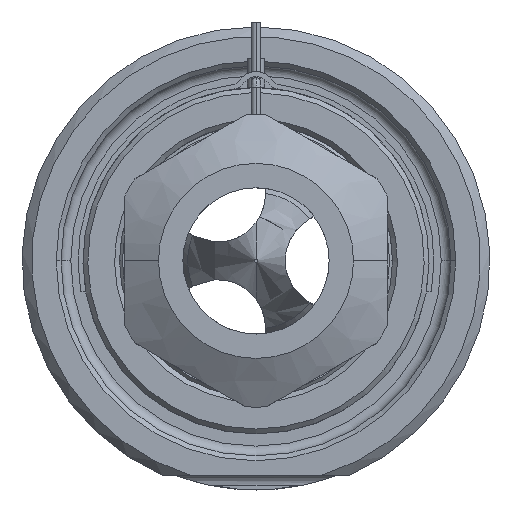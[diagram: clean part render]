
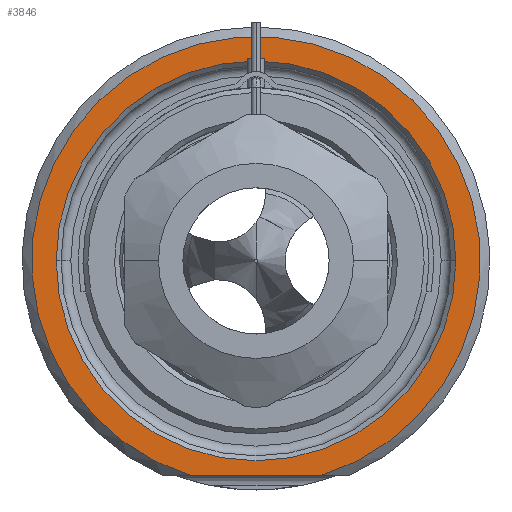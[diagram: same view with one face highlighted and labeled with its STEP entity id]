
A CAD part, front view. The second image highlights one B-rep face of the part: STEP entity #3846.
In plain terms, the highlighted planar face has unit normal (0, -1, 0).
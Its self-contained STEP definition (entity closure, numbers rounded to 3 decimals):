
#1=DIRECTION('',(1.,0.,0.));
#2=VECTOR('',#1,13.416);
#3=CARTESIAN_POINT('',(-6.708,0.,-22.));
#4=LINE('',#3,#2);
#5=CARTESIAN_POINT('',(0.,0.,0.));
#6=DIRECTION('',(0.,1.,0.));
#7=DIRECTION('',(-1.,0.,0.));
#8=AXIS2_PLACEMENT_3D('',#5,#6,#7);
#10=CARTESIAN_POINT('',(0.,0.,0.));
#11=DIRECTION('',(0.,1.,0.));
#12=DIRECTION('',(1.,0.,0.));
#13=AXIS2_PLACEMENT_3D('',#10,#11,#12);
#121=CARTESIAN_POINT('',(0.,0.,0.));
#122=DIRECTION('',(0.,-1.,0.));
#123=DIRECTION('',(0.292,0.,-0.957));
#124=AXIS2_PLACEMENT_3D('',#121,#122,#123);
#3229=CARTESIAN_POINT('',(-20.5,0.,0.));
#3230=CARTESIAN_POINT('',(20.5,0.,0.));
#3231=VERTEX_POINT('',#3229);
#3232=VERTEX_POINT('',#3230);
#3269=CARTESIAN_POINT('',(-6.708,0.,-22.));
#3270=CARTESIAN_POINT('',(6.708,0.,-22.));
#3271=VERTEX_POINT('',#3269);
#3272=VERTEX_POINT('',#3270);
#3829=CARTESIAN_POINT('',(0.,0.,0.));
#3830=DIRECTION('',(0.,-1.,0.));
#3831=DIRECTION('',(1.,0.,0.));
#3832=AXIS2_PLACEMENT_3D('',#3829,#3830,#3831);
#3833=PLANE('',#3832);
#3835=ORIENTED_EDGE('',*,*,#3834,.F.);
#3837=ORIENTED_EDGE('',*,*,#3836,.F.);
#3838=EDGE_LOOP('',(#3835,#3837));
#3839=FACE_OUTER_BOUND('',#3838,.F.);
#3841=ORIENTED_EDGE('',*,*,#3840,.F.);
#3843=ORIENTED_EDGE('',*,*,#3842,.F.);
#3844=EDGE_LOOP('',(#3841,#3843));
#3845=FACE_BOUND('',#3844,.F.);
#3846=ADVANCED_FACE('',(#3839,#3845),#3833,.T.);
#9=CIRCLE('',#8,20.5);
#14=CIRCLE('',#13,20.5);
#125=CIRCLE('',#124,23.);
#3834=EDGE_CURVE('',#3271,#3272,#4,.T.);
#3836=EDGE_CURVE('',#3272,#3271,#125,.T.);
#3840=EDGE_CURVE('',#3231,#3232,#9,.T.);
#3842=EDGE_CURVE('',#3232,#3231,#14,.T.);
